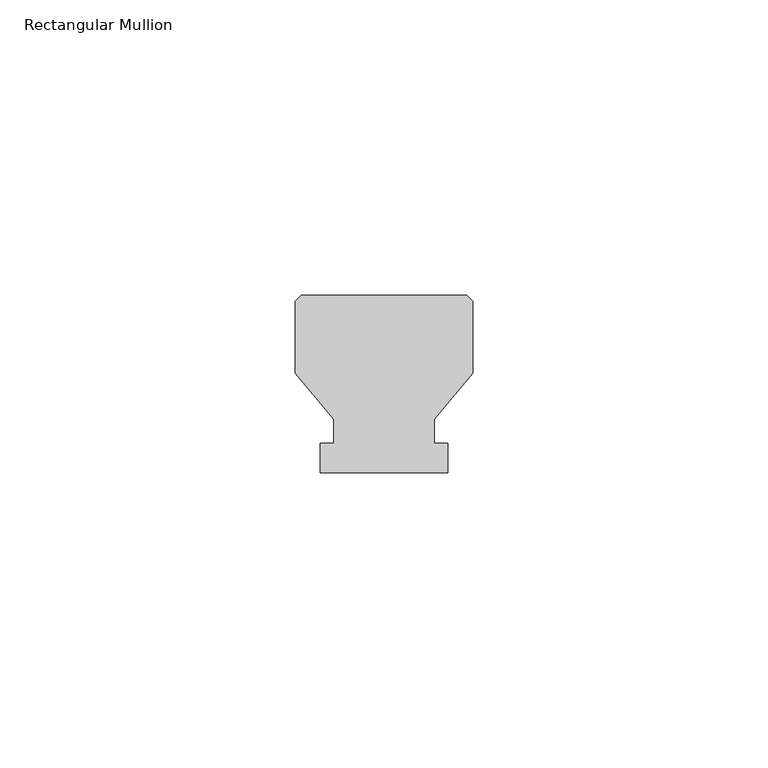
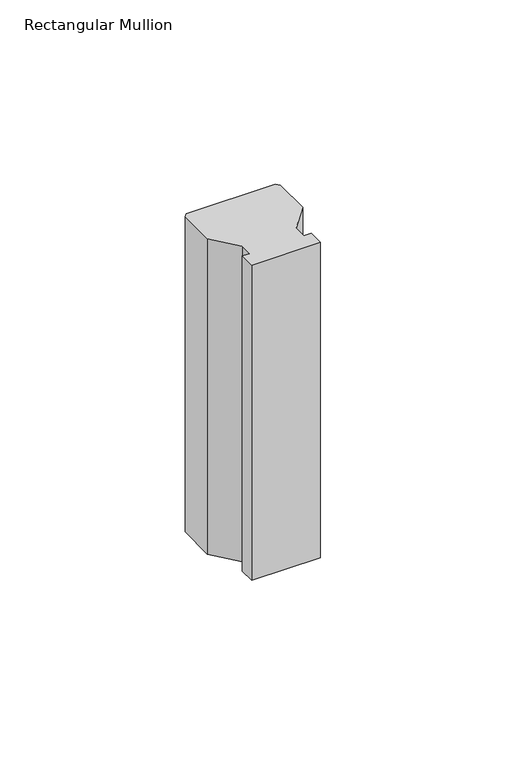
"""IFC4 building model written with IfcOpenShell, lengths in millimetres: member geometry, Rectangular Mullion : Batten_Timber_Modinex_Austratus_Grid_Fin_30x30_AlaskanYellowCedar."""

from ifc_helpers import new_model, si_unit, frame, origin, place, context, project, spatial, polyline, outline, extrude, source, transform, mapped, element, save


def rectangular_mullion_7f8dba3f(model_context):
    return source(origin(), model_context, "Body", "SweptSolid", [
        extrude(outline(polyline([(0.0, 16.8079815), (-6.5, 9.0), (-6.5, 5.0), (-4.187805, 5.0), (-4.187805, 0.0), (-25.812195, 0.0), (-25.812195, 5.0), (-23.5, 5.0), (-23.5, 9.0), (-30.0, 16.8079815), (-30.0, 29.0), (-29.0, 30.0), (-1.0, 30.0), (0.0, 29.0), (0.0, 16.8079815)])), frame((0.0, 0.0, -105.0000003), z_axis=(0.0, 0.0, 1.0), x_axis=(1.0, 0.0, 0.0)), (0.0, 0.0, 1.0), 105.0000003),
    ])


if __name__ == "__main__":
    model = new_model("IFC4")
    model_context = context("Model", 3, world=origin())
    ifc_project = project(units=[si_unit("LENGTHUNIT", "METRE", prefix="MILLI")], contexts=[model_context])
    site = spatial("IfcSite", under=ifc_project)
    building = spatial("IfcBuilding", under=site)
    placement = place(None, origin())
    rectangular_mullion_shape = rectangular_mullion_7f8dba3f(model_context)
    element("IfcMember", 1, ObjectType="Rectangular Mullion : Batten_Timber_Modinex_Austratus_Grid_Fin_30x30_AlaskanYellowCedar", at=placement, inside=building, context=model_context, shape_type="MappedRepresentation", body=[
        mapped(rectangular_mullion_shape, transform((0.0, 0.0, 0.0), x_axis=(1.0, 0.0, 0.0), y_axis=(0.0, 1.0, 0.0), z_axis=(0.0, 0.0, 1.0))),
    ])
    save(model, "model.ifc")
